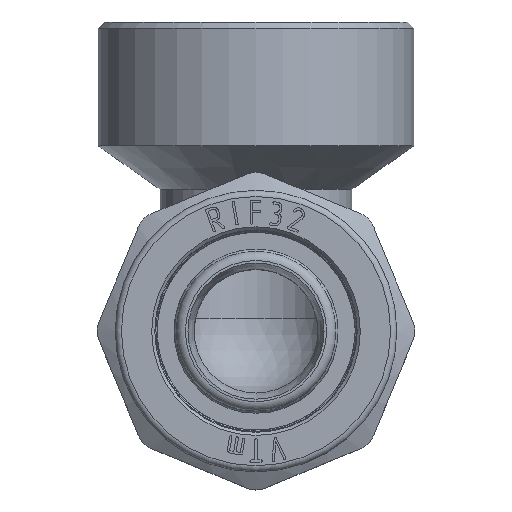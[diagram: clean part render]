
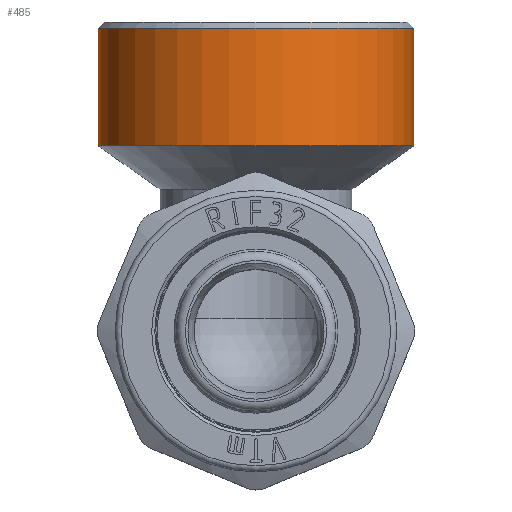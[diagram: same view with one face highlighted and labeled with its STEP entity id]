
A CAD part, top view. The second image highlights one B-rep face of the part: STEP entity #485.
In plain terms, the highlighted cylindrical face has radius 25.5 mm (diameter 51 mm), a full revolution.
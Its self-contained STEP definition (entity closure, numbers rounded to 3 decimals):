
#485=ADVANCED_FACE('',(#3535,#3537),#3539,.T.);
#3535=FACE_OUTER_BOUND('',#3536,.T.);
#3536=EDGE_LOOP('',(#6780));
#3537=FACE_OUTER_BOUND('',#3538,.T.);
#3538=EDGE_LOOP('',(#6781));
#3539=CYLINDRICAL_SURFACE('',#3540,25.5);
#3540=AXIS2_PLACEMENT_3D('',#3541,#3542,#3543);
#3541=CARTESIAN_POINT('',(0.,30.,0.));
#3542=DIRECTION('',(0.,1.,0.));
#3543=DIRECTION('',(-1.,0.,0.));
#6780=ORIENTED_EDGE('',*,*,#8109,.F.);
#6781=ORIENTED_EDGE('',*,*,#7973,.F.);
#7973=EDGE_CURVE('',#9941,#9941,#9942,.F.);
#8109=EDGE_CURVE('',#10146,#10146,#10147,.T.);
#9941=VERTEX_POINT('',#16568);
#9942=CIRCLE('',#16569,25.5);
#10146=VERTEX_POINT('',#17047);
#10147=CIRCLE('',#17048,25.5);
#16568=CARTESIAN_POINT('',(-25.5,30.,0.));
#16569=AXIS2_PLACEMENT_3D('',#16570,#16571,#16572);
#16570=CARTESIAN_POINT('',(0.,30.,0.));
#16571=DIRECTION('',(0.,1.,0.));
#16572=DIRECTION('',(-1.,0.,0.));
#17047=CARTESIAN_POINT('',(-25.5,49.,0.));
#17048=AXIS2_PLACEMENT_3D('',#17049,#17050,#17051);
#17049=CARTESIAN_POINT('',(0.,49.,0.));
#17050=DIRECTION('',(0.,1.,0.));
#17051=DIRECTION('',(-1.,0.,0.));
